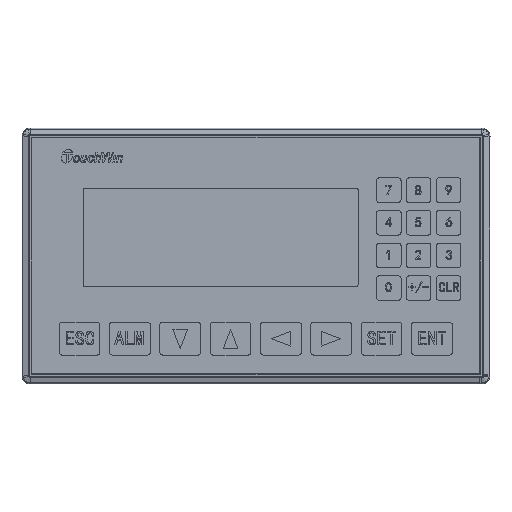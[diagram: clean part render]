
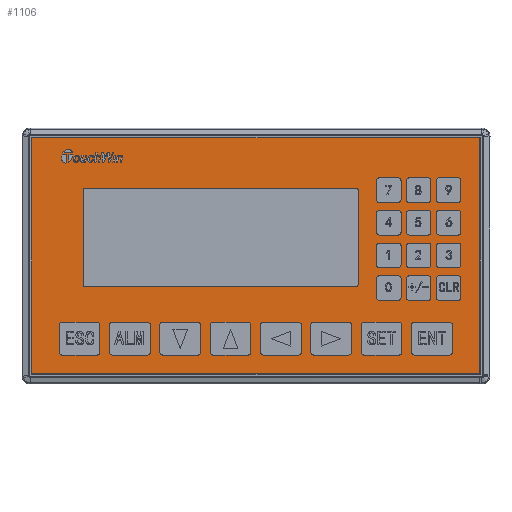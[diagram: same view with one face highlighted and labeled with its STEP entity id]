
A CAD part, top view. The second image highlights one B-rep face of the part: STEP entity #1106.
In plain terms, the highlighted planar face has unit normal (0, 0, 1).
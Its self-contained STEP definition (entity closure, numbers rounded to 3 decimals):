
#1106=ADVANCED_FACE('',(#2315),#18667,.T.);
#2315=FACE_OUTER_BOUND('',#3533,.T.);
#3533=EDGE_LOOP('',(#5068,#5069,#5070,#5071));
#5068=ORIENTED_EDGE('',*,*,#10974,.T.);
#5069=ORIENTED_EDGE('',*,*,#10975,.T.);
#5070=ORIENTED_EDGE('',*,*,#10976,.T.);
#5071=ORIENTED_EDGE('',*,*,#10977,.T.);
#10974=EDGE_CURVE('',#16710,#16711,#14171,.T.);
#10975=EDGE_CURVE('',#16711,#16712,#14172,.T.);
#10976=EDGE_CURVE('',#16712,#16713,#14173,.T.);
#10977=EDGE_CURVE('',#16713,#16710,#14174,.T.);
#14171=B_SPLINE_CURVE_WITH_KNOTS('',1,(#23361,#23362),.UNSPECIFIED.,.F.,
 .F.,(2,2),(0.,86.8),.UNSPECIFIED.);
#14172=B_SPLINE_CURVE_WITH_KNOTS('',1,(#23363,#23364),.UNSPECIFIED.,.F.,
 .F.,(2,2),(0.,164.8),.UNSPECIFIED.);
#14173=B_SPLINE_CURVE_WITH_KNOTS('',1,(#23365,#23366),.UNSPECIFIED.,.F.,
 .F.,(2,2),(0.,86.8),.UNSPECIFIED.);
#14174=B_SPLINE_CURVE_WITH_KNOTS('',1,(#23367,#23368),.UNSPECIFIED.,.F.,
 .F.,(2,2),(0.,164.8),.UNSPECIFIED.);
#16710=VERTEX_POINT('',#23357);
#16711=VERTEX_POINT('',#23358);
#16712=VERTEX_POINT('',#23359);
#16713=VERTEX_POINT('',#23360);
#18667=PLANE('',#19834);
#19834=AXIS2_PLACEMENT_3D('',#23356,#20961,$);
#20961=DIRECTION('',(0.,0.,1.));
#23356=CARTESIAN_POINT('',(41.186,-5.265,3.8));
#23357=CARTESIAN_POINT('',(41.186,-5.265,3.8));
#23358=CARTESIAN_POINT('',(41.186,-92.065,3.8));
#23359=CARTESIAN_POINT('',(205.986,-92.065,3.8));
#23360=CARTESIAN_POINT('',(205.986,-5.265,3.8));
#23361=CARTESIAN_POINT('',(41.186,-5.265,3.8));
#23362=CARTESIAN_POINT('',(41.186,-92.065,3.8));
#23363=CARTESIAN_POINT('',(41.186,-92.065,3.8));
#23364=CARTESIAN_POINT('',(205.986,-92.065,3.8));
#23365=CARTESIAN_POINT('',(205.986,-92.065,3.8));
#23366=CARTESIAN_POINT('',(205.986,-5.265,3.8));
#23367=CARTESIAN_POINT('',(205.986,-5.265,3.8));
#23368=CARTESIAN_POINT('',(41.186,-5.265,3.8));
